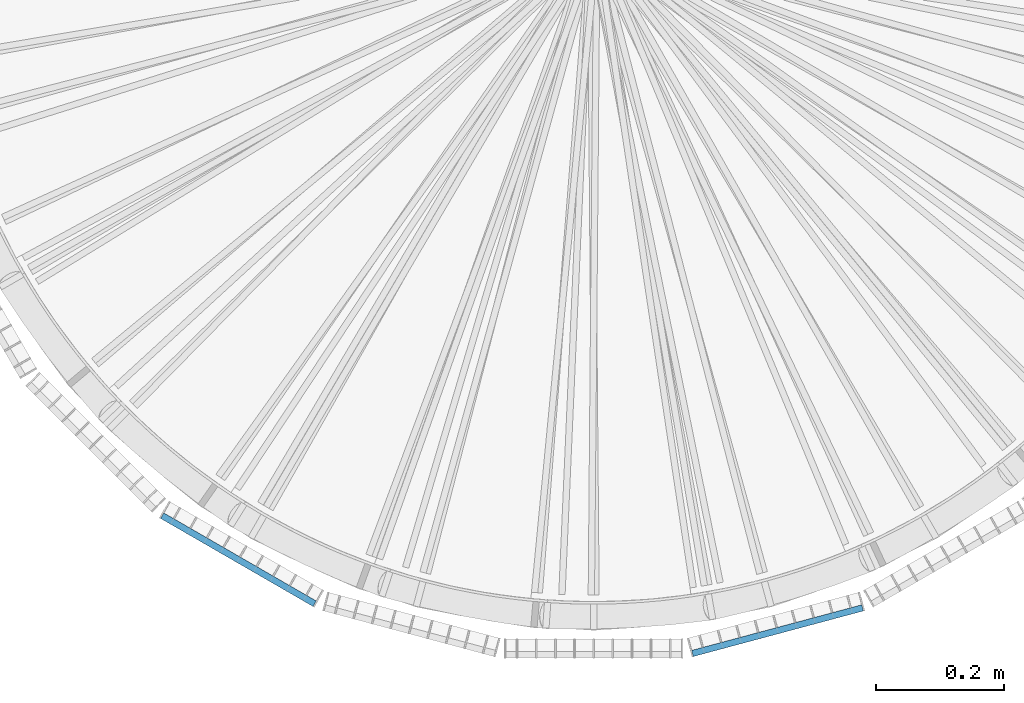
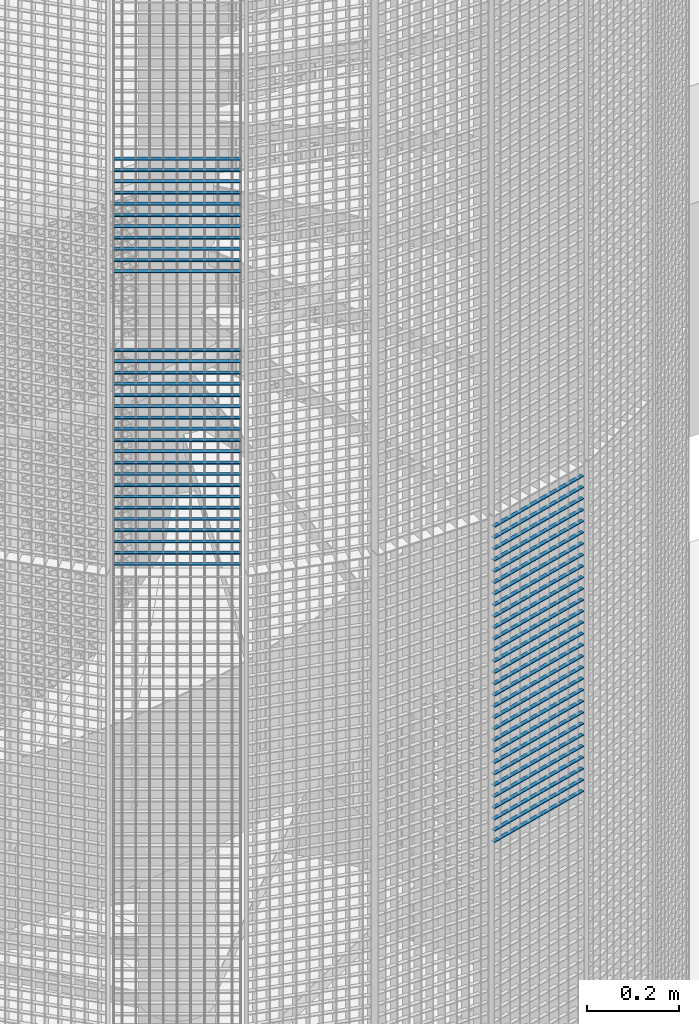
# One storey, part 146 of 1148: 60 beams, 2 elements without a shape of their own.
"""IFC2X3 building model written with IfcOpenShell, lengths in millimetres."""

from ifc_helpers import new_model, si_unit, frame, origin_with_axes, origin_2d_with_axis, place, context, subcontext, project, spatial, rectangle, extrude, material, type_object, element, aggregate, save


model = new_model("IFC2X3")

# Units and contexts
model_context = context("Model", 3, precision=1e-05, world=origin_with_axes())
body_context = subcontext(model_context, "Body", "Model", "MODEL_VIEW")
ifc_project = project(units=[si_unit("LENGTHUNIT", "METRE", prefix="MILLI"), si_unit("AREAUNIT", "SQUARE_METRE"), si_unit("VOLUMEUNIT", "CUBIC_METRE"), si_unit("MASSUNIT", "GRAM", prefix="KILO"), si_unit("TIMEUNIT", "SECOND"), si_unit("PLANEANGLEUNIT", "RADIAN"), si_unit("SOLIDANGLEUNIT", "STERADIAN"), si_unit("THERMODYNAMICTEMPERATUREUNIT", "DEGREE_CELSIUS"), si_unit("LUMINOUSINTENSITYUNIT", "LUMEN")], contexts=[model_context])

# Site, building, storey
site_placement = place(None, origin_with_axes())
site = spatial("IfcSite", under=ifc_project, at=site_placement, Name="Undefined", CompositionType="ELEMENT")
building_placement = place(site_placement, origin_with_axes())
building = spatial("IfcBuilding", under=site, at=building_placement, Name="Undefined", CompositionType="ELEMENT")
storey_placement = place(building_placement, origin_with_axes())
storey = spatial("IfcBuildingStorey", under=building, at=storey_placement, Name="Undefined", CompositionType="ELEMENT", Elevation=0.0)

# Assembly, beams
assembly_1_placement = place(storey_placement, origin_with_axes())
assembly_1 = element("IfcElementAssembly", 1, at=assembly_1_placement, inside=storey, Name="BORDURE", AssemblyPlace="NOTDEFINED", PredefinedType="NOTDEFINED")
ifc_material = material(Name="STEEL/S235JR")
beam_type = type_object("IfcBeamType", Name="PL2*10", PredefinedType="NOTDEFINED")
beam_1_placement = place(assembly_1_placement, frame((-676.248044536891, -895.30396491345, 12600.0), z_axis=(-0.49999999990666, -0.866025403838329, 0.0), x_axis=(0.866025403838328, -0.49999999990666, 0.0)))
beam_1 = element("IfcBeam", 2, at=beam_1_placement, type_object=beam_type, material=ifc_material, Name="ENTRETOISE", context=body_context, shape_type="SweptSolid", body=[
    extrude(rectangle(XDim=2.0, YDim=10.0, at=origin_2d_with_axis()), frame((275.999999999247, 9.09494701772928e-13, 1.53210777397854e-14), z_axis=(-1.0, 0.0, 0.0), x_axis=(0.0, -1.0, 0.0)), (0.0, 0.0, 1.0), 276.0),
])
beam_2_placement = place(assembly_1_placement, frame((-676.248044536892, -895.303964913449, 12810.0), z_axis=(-0.49999999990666, -0.866025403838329, 0.0), x_axis=(0.866025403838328, -0.49999999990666, 0.0)))
beam_2 = element("IfcBeam", 3, at=beam_2_placement, type_object=beam_type, material=ifc_material, Name="ENTRETOISE", context=body_context, shape_type="SweptSolid", body=[
    extrude(rectangle(XDim=2.0, YDim=10.0, at=origin_2d_with_axis()), frame((275.999999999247, 9.09494701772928e-13, 1.53210777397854e-14), z_axis=(-1.0, 0.0, 0.0), x_axis=(0.0, -1.0, 0.0)), (0.0, 0.0, 1.0), 276.0),
])
beam_3_placement = place(assembly_1_placement, frame((-676.248044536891, -895.30396491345, 12570.0), z_axis=(-0.49999999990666, -0.866025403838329, 0.0), x_axis=(0.866025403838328, -0.49999999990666, 0.0)))
beam_3 = element("IfcBeam", 4, at=beam_3_placement, type_object=beam_type, material=ifc_material, Name="ENTRETOISE", context=body_context, shape_type="SweptSolid", body=[
    extrude(rectangle(XDim=2.0, YDim=10.0, at=origin_2d_with_axis()), frame((275.999999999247, 9.09494701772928e-13, 1.53210777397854e-14), z_axis=(-1.0, 0.0, 0.0), x_axis=(0.0, -1.0, 0.0)), (0.0, 0.0, 1.0), 276.0),
])
beam_4_placement = place(assembly_1_placement, frame((-676.248044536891, -895.30396491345, 12540.0), z_axis=(-0.49999999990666, -0.866025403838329, 0.0), x_axis=(0.866025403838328, -0.49999999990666, 0.0)))
beam_4 = element("IfcBeam", 5, at=beam_4_placement, type_object=beam_type, material=ifc_material, Name="ENTRETOISE", context=body_context, shape_type="SweptSolid", body=[
    extrude(rectangle(XDim=2.0, YDim=10.0, at=origin_2d_with_axis()), frame((275.999999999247, 9.09494701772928e-13, 1.53210777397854e-14), z_axis=(-1.0, 0.0, 0.0), x_axis=(0.0, -1.0, 0.0)), (0.0, 0.0, 1.0), 276.0),
])
beam_5_placement = place(assembly_1_placement, frame((-676.248044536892, -895.303964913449, 12840.0), z_axis=(-0.49999999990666, -0.866025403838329, 0.0), x_axis=(0.866025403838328, -0.49999999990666, 0.0)))
beam_5 = element("IfcBeam", 6, at=beam_5_placement, type_object=beam_type, material=ifc_material, Name="ENTRETOISE", context=body_context, shape_type="SweptSolid", body=[
    extrude(rectangle(XDim=2.0, YDim=10.0, at=origin_2d_with_axis()), frame((275.999999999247, 9.09494701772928e-13, 1.53210777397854e-14), z_axis=(-1.0, 0.0, 0.0), x_axis=(0.0, -1.0, 0.0)), (0.0, 0.0, 1.0), 276.0),
])
beam_6_placement = place(assembly_1_placement, frame((-676.248044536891, -895.303964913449, 12510.0), z_axis=(-0.49999999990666, -0.866025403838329, 0.0), x_axis=(0.866025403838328, -0.49999999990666, 0.0)))
beam_6 = element("IfcBeam", 7, at=beam_6_placement, type_object=beam_type, material=ifc_material, Name="ENTRETOISE", context=body_context, shape_type="SweptSolid", body=[
    extrude(rectangle(XDim=2.0, YDim=10.0, at=origin_2d_with_axis()), frame((275.999999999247, 9.09494701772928e-13, 1.53210777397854e-14), z_axis=(-1.0, 0.0, 0.0), x_axis=(0.0, -1.0, 0.0)), (0.0, 0.0, 1.0), 276.0),
])
beam_7_placement = place(assembly_1_placement, frame((-676.248044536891, -895.303964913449, 12480.0), z_axis=(-0.49999999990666, -0.866025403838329, 0.0), x_axis=(0.866025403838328, -0.49999999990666, 0.0)))
beam_7 = element("IfcBeam", 8, at=beam_7_placement, type_object=beam_type, material=ifc_material, Name="ENTRETOISE", context=body_context, shape_type="SweptSolid", body=[
    extrude(rectangle(XDim=2.0, YDim=10.0, at=origin_2d_with_axis()), frame((275.999999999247, 9.09494701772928e-13, 1.53210777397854e-14), z_axis=(-1.0, 0.0, 0.0), x_axis=(0.0, -1.0, 0.0)), (0.0, 0.0, 1.0), 276.0),
])
beam_8_placement = place(assembly_1_placement, frame((-676.248044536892, -895.303964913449, 12870.0), z_axis=(-0.49999999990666, -0.866025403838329, 0.0), x_axis=(0.866025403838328, -0.49999999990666, 0.0)))
beam_8 = element("IfcBeam", 9, at=beam_8_placement, type_object=beam_type, material=ifc_material, Name="ENTRETOISE", context=body_context, shape_type="SweptSolid", body=[
    extrude(rectangle(XDim=2.0, YDim=10.0, at=origin_2d_with_axis()), frame((275.999999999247, 9.09494701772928e-13, 1.53210777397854e-14), z_axis=(-1.0, 0.0, 0.0), x_axis=(0.0, -1.0, 0.0)), (0.0, 0.0, 1.0), 276.0),
])
beam_9_placement = place(assembly_1_placement, frame((-676.248044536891, -895.30396491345, 12450.0), z_axis=(-0.49999999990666, -0.866025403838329, 0.0), x_axis=(0.866025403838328, -0.49999999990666, 0.0)))
beam_9 = element("IfcBeam", 10, at=beam_9_placement, type_object=beam_type, material=ifc_material, Name="ENTRETOISE", context=body_context, shape_type="SweptSolid", body=[
    extrude(rectangle(XDim=2.0, YDim=10.0, at=origin_2d_with_axis()), frame((275.999999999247, 9.09494701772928e-13, 1.53210777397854e-14), z_axis=(-1.0, 0.0, 0.0), x_axis=(0.0, -1.0, 0.0)), (0.0, 0.0, 1.0), 276.0),
])
beam_10_placement = place(assembly_1_placement, frame((-676.24804453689, -895.30396491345, 12420.0), z_axis=(-0.49999999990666, -0.866025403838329, 0.0), x_axis=(0.866025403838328, -0.49999999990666, 0.0)))
beam_10 = element("IfcBeam", 11, at=beam_10_placement, type_object=beam_type, material=ifc_material, Name="ENTRETOISE", context=body_context, shape_type="SweptSolid", body=[
    extrude(rectangle(XDim=2.0, YDim=10.0, at=origin_2d_with_axis()), frame((275.999999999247, 9.09494701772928e-13, 1.53210777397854e-14), z_axis=(-1.0, 0.0, 0.0), x_axis=(0.0, -1.0, 0.0)), (0.0, 0.0, 1.0), 276.0),
])
beam_11_placement = place(assembly_1_placement, frame((-676.248044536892, -895.303964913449, 12900.0), z_axis=(-0.49999999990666, -0.866025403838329, 0.0), x_axis=(0.866025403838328, -0.49999999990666, 0.0)))
beam_11 = element("IfcBeam", 12, at=beam_11_placement, type_object=beam_type, material=ifc_material, Name="ENTRETOISE", context=body_context, shape_type="SweptSolid", body=[
    extrude(rectangle(XDim=2.0, YDim=10.0, at=origin_2d_with_axis()), frame((275.999999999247, 9.09494701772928e-13, 1.53210777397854e-14), z_axis=(-1.0, 0.0, 0.0), x_axis=(0.0, -1.0, 0.0)), (0.0, 0.0, 1.0), 276.0),
])
beam_12_placement = place(assembly_1_placement, frame((-676.24804453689, -895.30396491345, 12390.0), z_axis=(-0.49999999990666, -0.866025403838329, 0.0), x_axis=(0.866025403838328, -0.49999999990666, 0.0)))
beam_12 = element("IfcBeam", 13, at=beam_12_placement, type_object=beam_type, material=ifc_material, Name="ENTRETOISE", context=body_context, shape_type="SweptSolid", body=[
    extrude(rectangle(XDim=2.0, YDim=10.0, at=origin_2d_with_axis()), frame((275.999999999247, 9.09494701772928e-13, 1.53210777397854e-14), z_axis=(-1.0, 0.0, 0.0), x_axis=(0.0, -1.0, 0.0)), (0.0, 0.0, 1.0), 276.0),
])
beam_13_placement = place(assembly_1_placement, frame((-676.248044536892, -895.303964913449, 12930.0), z_axis=(-0.49999999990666, -0.866025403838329, 0.0), x_axis=(0.866025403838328, -0.49999999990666, 0.0)))
beam_13 = element("IfcBeam", 14, at=beam_13_placement, type_object=beam_type, material=ifc_material, Name="ENTRETOISE", context=body_context, shape_type="SweptSolid", body=[
    extrude(rectangle(XDim=2.0, YDim=10.0, at=origin_2d_with_axis()), frame((275.999999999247, 9.09494701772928e-13, 1.53210777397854e-14), z_axis=(-1.0, 0.0, 0.0), x_axis=(0.0, -1.0, 0.0)), (0.0, 0.0, 1.0), 276.0),
])
beam_14_placement = place(assembly_1_placement, frame((-676.24804453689, -895.30396491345, 12360.0), z_axis=(-0.49999999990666, -0.866025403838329, 0.0), x_axis=(0.866025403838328, -0.49999999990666, 0.0)))
beam_14 = element("IfcBeam", 15, at=beam_14_placement, type_object=beam_type, material=ifc_material, Name="ENTRETOISE", context=body_context, shape_type="SweptSolid", body=[
    extrude(rectangle(XDim=2.0, YDim=10.0, at=origin_2d_with_axis()), frame((275.999999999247, 9.09494701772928e-13, 1.53210777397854e-14), z_axis=(-1.0, 0.0, 0.0), x_axis=(0.0, -1.0, 0.0)), (0.0, 0.0, 1.0), 276.0),
])
beam_15_placement = place(assembly_1_placement, frame((-676.24804453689, -895.30396491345, 12330.0), z_axis=(-0.49999999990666, -0.866025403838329, 0.0), x_axis=(0.866025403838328, -0.49999999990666, 0.0)))
beam_15 = element("IfcBeam", 16, at=beam_15_placement, type_object=beam_type, material=ifc_material, Name="ENTRETOISE", context=body_context, shape_type="SweptSolid", body=[
    extrude(rectangle(XDim=2.0, YDim=10.0, at=origin_2d_with_axis()), frame((275.999999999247, 9.09494701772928e-13, 1.53210777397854e-14), z_axis=(-1.0, 0.0, 0.0), x_axis=(0.0, -1.0, 0.0)), (0.0, 0.0, 1.0), 276.0),
])
beam_16_placement = place(assembly_1_placement, frame((-676.248044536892, -895.303964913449, 12960.0), z_axis=(-0.49999999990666, -0.866025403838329, 0.0), x_axis=(0.866025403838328, -0.49999999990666, 0.0)))
beam_16 = element("IfcBeam", 17, at=beam_16_placement, type_object=beam_type, material=ifc_material, Name="ENTRETOISE", context=body_context, shape_type="SweptSolid", body=[
    extrude(rectangle(XDim=2.0, YDim=10.0, at=origin_2d_with_axis()), frame((275.999999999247, 9.09494701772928e-13, 1.53210777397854e-14), z_axis=(-1.0, 0.0, 0.0), x_axis=(0.0, -1.0, 0.0)), (0.0, 0.0, 1.0), 276.0),
])
beam_17_placement = place(assembly_1_placement, frame((-676.24804453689, -895.30396491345, 12300.0), z_axis=(-0.49999999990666, -0.866025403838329, 0.0), x_axis=(0.866025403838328, -0.49999999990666, 0.0)))
beam_17 = element("IfcBeam", 18, at=beam_17_placement, type_object=beam_type, material=ifc_material, Name="ENTRETOISE", context=body_context, shape_type="SweptSolid", body=[
    extrude(rectangle(XDim=2.0, YDim=10.0, at=origin_2d_with_axis()), frame((275.999999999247, 9.09494701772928e-13, 1.53210777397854e-14), z_axis=(-1.0, 0.0, 0.0), x_axis=(0.0, -1.0, 0.0)), (0.0, 0.0, 1.0), 276.0),
])
beam_18_placement = place(assembly_1_placement, frame((-676.24804453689, -895.30396491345, 12270.0), z_axis=(-0.49999999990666, -0.866025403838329, 0.0), x_axis=(0.866025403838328, -0.49999999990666, 0.0)))
beam_18 = element("IfcBeam", 19, at=beam_18_placement, type_object=beam_type, material=ifc_material, Name="ENTRETOISE", context=body_context, shape_type="SweptSolid", body=[
    extrude(rectangle(XDim=2.0, YDim=10.0, at=origin_2d_with_axis()), frame((275.999999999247, 9.09494701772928e-13, 1.53210777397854e-14), z_axis=(-1.0, 0.0, 0.0), x_axis=(0.0, -1.0, 0.0)), (0.0, 0.0, 1.0), 276.0),
])
beam_19_placement = place(assembly_1_placement, frame((-676.248044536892, -895.303964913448, 12990.0), z_axis=(-0.49999999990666, -0.866025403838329, 0.0), x_axis=(0.866025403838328, -0.49999999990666, 0.0)))
beam_19 = element("IfcBeam", 20, at=beam_19_placement, type_object=beam_type, material=ifc_material, Name="ENTRETOISE", context=body_context, shape_type="SweptSolid", body=[
    extrude(rectangle(XDim=2.0, YDim=10.0, at=origin_2d_with_axis()), frame((275.999999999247, 9.09494701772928e-13, 1.53210777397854e-14), z_axis=(-1.0, 0.0, 0.0), x_axis=(0.0, -1.0, 0.0)), (0.0, 0.0, 1.0), 276.0),
])
beam_20_placement = place(assembly_1_placement, frame((-676.24804453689, -895.30396491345, 12240.0), z_axis=(-0.49999999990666, -0.866025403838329, 0.0), x_axis=(0.866025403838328, -0.49999999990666, 0.0)))
beam_20 = element("IfcBeam", 21, at=beam_20_placement, type_object=beam_type, material=ifc_material, Name="ENTRETOISE", context=body_context, shape_type="SweptSolid", body=[
    extrude(rectangle(XDim=2.0, YDim=10.0, at=origin_2d_with_axis()), frame((275.999999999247, 9.09494701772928e-13, 1.53210777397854e-14), z_axis=(-1.0, 0.0, 0.0), x_axis=(0.0, -1.0, 0.0)), (0.0, 0.0, 1.0), 276.0),
])
beam_21_placement = place(assembly_1_placement, frame((-676.248044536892, -895.303964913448, 13020.0), z_axis=(-0.49999999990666, -0.866025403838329, 0.0), x_axis=(0.866025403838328, -0.49999999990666, 0.0)))
beam_21 = element("IfcBeam", 22, at=beam_21_placement, type_object=beam_type, material=ifc_material, Name="ENTRETOISE", context=body_context, shape_type="SweptSolid", body=[
    extrude(rectangle(XDim=2.0, YDim=10.0, at=origin_2d_with_axis()), frame((275.999999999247, 9.09494701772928e-13, 1.53210777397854e-14), z_axis=(-1.0, 0.0, 0.0), x_axis=(0.0, -1.0, 0.0)), (0.0, 0.0, 1.0), 276.0),
])
beam_22_placement = place(assembly_1_placement, frame((-676.24804453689, -895.30396491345, 12210.0), z_axis=(-0.49999999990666, -0.866025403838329, 0.0), x_axis=(0.866025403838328, -0.49999999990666, 0.0)))
beam_22 = element("IfcBeam", 23, at=beam_22_placement, type_object=beam_type, material=ifc_material, Name="ENTRETOISE", context=body_context, shape_type="SweptSolid", body=[
    extrude(rectangle(XDim=2.0, YDim=10.0, at=origin_2d_with_axis()), frame((275.999999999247, 9.09494701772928e-13, 1.53210777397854e-14), z_axis=(-1.0, 0.0, 0.0), x_axis=(0.0, -1.0, 0.0)), (0.0, 0.0, 1.0), 276.0),
])
beam_23_placement = place(assembly_1_placement, frame((-676.24804453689, -895.30396491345, 12180.0), z_axis=(-0.49999999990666, -0.866025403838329, 0.0), x_axis=(0.866025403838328, -0.49999999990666, 0.0)))
beam_23 = element("IfcBeam", 24, at=beam_23_placement, type_object=beam_type, material=ifc_material, Name="ENTRETOISE", context=body_context, shape_type="SweptSolid", body=[
    extrude(rectangle(XDim=2.0, YDim=10.0, at=origin_2d_with_axis()), frame((275.999999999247, 9.09494701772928e-13, 1.53210777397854e-14), z_axis=(-1.0, 0.0, 0.0), x_axis=(0.0, -1.0, 0.0)), (0.0, 0.0, 1.0), 276.0),
])
beam_24_placement = place(assembly_1_placement, frame((-676.248044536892, -895.303964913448, 13050.0), z_axis=(-0.49999999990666, -0.866025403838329, 0.0), x_axis=(0.866025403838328, -0.49999999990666, 0.0)))
beam_24 = element("IfcBeam", 25, at=beam_24_placement, type_object=beam_type, material=ifc_material, Name="ENTRETOISE", context=body_context, shape_type="SweptSolid", body=[
    extrude(rectangle(XDim=2.0, YDim=10.0, at=origin_2d_with_axis()), frame((275.999999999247, 9.09494701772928e-13, 1.53210777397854e-14), z_axis=(-1.0, 0.0, 0.0), x_axis=(0.0, -1.0, 0.0)), (0.0, 0.0, 1.0), 276.0),
])
beam_25_placement = place(assembly_1_placement, frame((-676.24804453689, -895.30396491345, 12150.0), z_axis=(-0.49999999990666, -0.866025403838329, 0.0), x_axis=(0.866025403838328, -0.49999999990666, 0.0)))
beam_25 = element("IfcBeam", 26, at=beam_25_placement, type_object=beam_type, material=ifc_material, Name="ENTRETOISE", context=body_context, shape_type="SweptSolid", body=[
    extrude(rectangle(XDim=2.0, YDim=10.0, at=origin_2d_with_axis()), frame((275.999999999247, 9.09494701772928e-13, 1.53210777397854e-14), z_axis=(-1.0, 0.0, 0.0), x_axis=(0.0, -1.0, 0.0)), (0.0, 0.0, 1.0), 276.0),
])
beam_26_placement = place(assembly_1_placement, frame((-676.248044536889, -895.30396491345, 12120.0), z_axis=(-0.49999999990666, -0.866025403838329, 0.0), x_axis=(0.866025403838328, -0.49999999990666, 0.0)))
beam_26 = element("IfcBeam", 27, at=beam_26_placement, type_object=beam_type, material=ifc_material, Name="ENTRETOISE", context=body_context, shape_type="SweptSolid", body=[
    extrude(rectangle(XDim=2.0, YDim=10.0, at=origin_2d_with_axis()), frame((275.999999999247, 9.09494701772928e-13, 1.53210777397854e-14), z_axis=(-1.0, 0.0, 0.0), x_axis=(0.0, -1.0, 0.0)), (0.0, 0.0, 1.0), 276.0),
])
beam_27_placement = place(assembly_1_placement, frame((-676.248044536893, -895.303964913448, 13080.0), z_axis=(-0.49999999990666, -0.866025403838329, 0.0), x_axis=(0.866025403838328, -0.49999999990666, 0.0)))
beam_27 = element("IfcBeam", 28, at=beam_27_placement, type_object=beam_type, material=ifc_material, Name="ENTRETOISE", context=body_context, shape_type="SweptSolid", body=[
    extrude(rectangle(XDim=2.0, YDim=10.0, at=origin_2d_with_axis()), frame((275.999999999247, 9.09494701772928e-13, 1.53210777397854e-14), z_axis=(-1.0, 0.0, 0.0), x_axis=(0.0, -1.0, 0.0)), (0.0, 0.0, 1.0), 276.0),
])
beam_28_placement = place(assembly_1_placement, frame((-676.248044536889, -895.30396491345, 12090.0), z_axis=(-0.49999999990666, -0.866025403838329, 0.0), x_axis=(0.866025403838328, -0.49999999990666, 0.0)))
beam_28 = element("IfcBeam", 29, at=beam_28_placement, type_object=beam_type, material=ifc_material, Name="ENTRETOISE", context=body_context, shape_type="SweptSolid", body=[
    extrude(rectangle(XDim=2.0, YDim=10.0, at=origin_2d_with_axis()), frame((275.999999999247, 9.09494701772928e-13, 1.53210777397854e-14), z_axis=(-1.0, 0.0, 0.0), x_axis=(0.0, -1.0, 0.0)), (0.0, 0.0, 1.0), 276.0),
])
beam_29_placement = place(assembly_1_placement, frame((-676.248044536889, -895.30396491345, 12060.0), z_axis=(-0.49999999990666, -0.866025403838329, 0.0), x_axis=(0.866025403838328, -0.49999999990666, 0.0)))
beam_29 = element("IfcBeam", 30, at=beam_29_placement, type_object=beam_type, material=ifc_material, Name="ENTRETOISE", context=body_context, shape_type="SweptSolid", body=[
    extrude(rectangle(XDim=2.0, YDim=10.0, at=origin_2d_with_axis()), frame((275.999999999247, 9.09494701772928e-13, 1.53210777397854e-14), z_axis=(-1.0, 0.0, 0.0), x_axis=(0.0, -1.0, 0.0)), (0.0, 0.0, 1.0), 276.0),
])
beam_30_placement = place(assembly_1_placement, frame((-676.248044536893, -895.303964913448, 13110.0), z_axis=(-0.49999999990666, -0.866025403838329, 0.0), x_axis=(0.866025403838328, -0.49999999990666, 0.0)))
beam_30 = element("IfcBeam", 31, at=beam_30_placement, type_object=beam_type, material=ifc_material, Name="ENTRETOISE", context=body_context, shape_type="SweptSolid", body=[
    extrude(rectangle(XDim=2.0, YDim=10.0, at=origin_2d_with_axis()), frame((275.999999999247, 9.09494701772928e-13, 1.53210777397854e-14), z_axis=(-1.0, 0.0, 0.0), x_axis=(0.0, -1.0, 0.0)), (0.0, 0.0, 1.0), 276.0),
])
beam_31_placement = place(assembly_1_placement, frame((-676.248044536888, -895.30396491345, 12030.0), z_axis=(-0.49999999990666, -0.866025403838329, 0.0), x_axis=(0.866025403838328, -0.49999999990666, 0.0)))
beam_31 = element("IfcBeam", 32, at=beam_31_placement, type_object=beam_type, material=ifc_material, Name="ENTRETOISE", context=body_context, shape_type="SweptSolid", body=[
    extrude(rectangle(XDim=2.0, YDim=10.0, at=origin_2d_with_axis()), frame((275.999999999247, 9.09494701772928e-13, 1.53210777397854e-14), z_axis=(-1.0, 0.0, 0.0), x_axis=(0.0, -1.0, 0.0)), (0.0, 0.0, 1.0), 276.0),
])
aggregate(assembly_1, [beam_1, beam_2, beam_3, beam_4, beam_5, beam_6, beam_7, beam_8, beam_9, beam_10, beam_11, beam_12, beam_13, beam_14, beam_15, beam_16, beam_17, beam_18, beam_19, beam_20, beam_21, beam_22, beam_23, beam_24, beam_25, beam_26, beam_27, beam_28, beam_29, beam_30, beam_31])

assembly_2_placement = place(storey_placement, origin_with_axes())
assembly_2 = element("IfcElementAssembly", 33, at=assembly_2_placement, inside=storey, Name="BORDURE", AssemblyPlace="NOTDEFINED", PredefinedType="NOTDEFINED")
beam_32_placement = place(assembly_2_placement, frame((154.895926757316, -1111.25508286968, 11970.0), z_axis=(0.258819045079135, -0.965925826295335, 0.0), x_axis=(0.965925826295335, 0.258819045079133, 0.0)))
beam_32 = element("IfcBeam", 34, at=beam_32_placement, type_object=beam_type, material=ifc_material, Name="ENTRETOISE", context=body_context, shape_type="SweptSolid", body=[
    extrude(rectangle(XDim=2.0, YDim=10.0, at=origin_2d_with_axis()), frame((275.999999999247, 9.09494701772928e-13, 1.53210777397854e-14), z_axis=(-1.0, 0.0, 0.0), x_axis=(0.0, -1.0, 0.0)), (0.0, 0.0, 1.0), 276.0),
])
beam_33_placement = place(assembly_2_placement, frame((154.895926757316, -1111.25508286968, 11940.0), z_axis=(0.258819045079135, -0.965925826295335, 0.0), x_axis=(0.965925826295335, 0.258819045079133, 0.0)))
beam_33 = element("IfcBeam", 35, at=beam_33_placement, type_object=beam_type, material=ifc_material, Name="ENTRETOISE", context=body_context, shape_type="SweptSolid", body=[
    extrude(rectangle(XDim=2.0, YDim=10.0, at=origin_2d_with_axis()), frame((275.999999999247, 9.09494701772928e-13, 1.53210777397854e-14), z_axis=(-1.0, 0.0, 0.0), x_axis=(0.0, -1.0, 0.0)), (0.0, 0.0, 1.0), 276.0),
])
beam_34_placement = place(assembly_2_placement, frame((154.895926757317, -1111.25508286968, 11910.0), z_axis=(0.258819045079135, -0.965925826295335, 0.0), x_axis=(0.965925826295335, 0.258819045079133, 0.0)))
beam_34 = element("IfcBeam", 36, at=beam_34_placement, type_object=beam_type, material=ifc_material, Name="ENTRETOISE", context=body_context, shape_type="SweptSolid", body=[
    extrude(rectangle(XDim=2.0, YDim=10.0, at=origin_2d_with_axis()), frame((275.999999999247, 9.09494701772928e-13, 1.53210777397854e-14), z_axis=(-1.0, 0.0, 0.0), x_axis=(0.0, -1.0, 0.0)), (0.0, 0.0, 1.0), 276.0),
])
beam_35_placement = place(assembly_2_placement, frame((154.895926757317, -1111.25508286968, 11880.0), z_axis=(0.258819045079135, -0.965925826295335, 0.0), x_axis=(0.965925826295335, 0.258819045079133, 0.0)))
beam_35 = element("IfcBeam", 37, at=beam_35_placement, type_object=beam_type, material=ifc_material, Name="ENTRETOISE", context=body_context, shape_type="SweptSolid", body=[
    extrude(rectangle(XDim=2.0, YDim=10.0, at=origin_2d_with_axis()), frame((275.999999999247, 9.09494701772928e-13, 1.53210777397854e-14), z_axis=(-1.0, 0.0, 0.0), x_axis=(0.0, -1.0, 0.0)), (0.0, 0.0, 1.0), 276.0),
])
beam_36_placement = place(assembly_2_placement, frame((154.895926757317, -1111.25508286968, 11850.0), z_axis=(0.258819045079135, -0.965925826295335, 0.0), x_axis=(0.965925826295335, 0.258819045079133, 0.0)))
beam_36 = element("IfcBeam", 38, at=beam_36_placement, type_object=beam_type, material=ifc_material, Name="ENTRETOISE", context=body_context, shape_type="SweptSolid", body=[
    extrude(rectangle(XDim=2.0, YDim=10.0, at=origin_2d_with_axis()), frame((275.999999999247, 9.09494701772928e-13, 1.53210777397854e-14), z_axis=(-1.0, 0.0, 0.0), x_axis=(0.0, -1.0, 0.0)), (0.0, 0.0, 1.0), 276.0),
])
beam_37_placement = place(assembly_2_placement, frame((154.895926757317, -1111.25508286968, 11820.0), z_axis=(0.258819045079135, -0.965925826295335, 0.0), x_axis=(0.965925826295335, 0.258819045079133, 0.0)))
beam_37 = element("IfcBeam", 39, at=beam_37_placement, type_object=beam_type, material=ifc_material, Name="ENTRETOISE", context=body_context, shape_type="SweptSolid", body=[
    extrude(rectangle(XDim=2.0, YDim=10.0, at=origin_2d_with_axis()), frame((275.999999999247, 9.09494701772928e-13, 1.53210777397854e-14), z_axis=(-1.0, 0.0, 0.0), x_axis=(0.0, -1.0, 0.0)), (0.0, 0.0, 1.0), 276.0),
])
beam_38_placement = place(assembly_2_placement, frame((154.895926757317, -1111.25508286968, 11790.0), z_axis=(0.258819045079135, -0.965925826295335, 0.0), x_axis=(0.965925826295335, 0.258819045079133, 0.0)))
beam_38 = element("IfcBeam", 40, at=beam_38_placement, type_object=beam_type, material=ifc_material, Name="ENTRETOISE", context=body_context, shape_type="SweptSolid", body=[
    extrude(rectangle(XDim=2.0, YDim=10.0, at=origin_2d_with_axis()), frame((275.999999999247, 9.09494701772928e-13, 1.53210777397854e-14), z_axis=(-1.0, 0.0, 0.0), x_axis=(0.0, -1.0, 0.0)), (0.0, 0.0, 1.0), 276.0),
])
beam_39_placement = place(assembly_2_placement, frame((154.895926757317, -1111.25508286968, 11760.0), z_axis=(0.258819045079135, -0.965925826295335, 0.0), x_axis=(0.965925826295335, 0.258819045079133, 0.0)))
beam_39 = element("IfcBeam", 41, at=beam_39_placement, type_object=beam_type, material=ifc_material, Name="ENTRETOISE", context=body_context, shape_type="SweptSolid", body=[
    extrude(rectangle(XDim=2.0, YDim=10.0, at=origin_2d_with_axis()), frame((275.999999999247, 9.09494701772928e-13, 1.53210777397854e-14), z_axis=(-1.0, 0.0, 0.0), x_axis=(0.0, -1.0, 0.0)), (0.0, 0.0, 1.0), 276.0),
])
beam_40_placement = place(assembly_2_placement, frame((154.895926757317, -1111.25508286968, 11730.0), z_axis=(0.258819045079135, -0.965925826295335, 0.0), x_axis=(0.965925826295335, 0.258819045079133, 0.0)))
beam_40 = element("IfcBeam", 42, at=beam_40_placement, type_object=beam_type, material=ifc_material, Name="ENTRETOISE", context=body_context, shape_type="SweptSolid", body=[
    extrude(rectangle(XDim=2.0, YDim=10.0, at=origin_2d_with_axis()), frame((275.999999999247, 9.09494701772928e-13, 1.53210777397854e-14), z_axis=(-1.0, 0.0, 0.0), x_axis=(0.0, -1.0, 0.0)), (0.0, 0.0, 1.0), 276.0),
])
beam_41_placement = place(assembly_2_placement, frame((154.895926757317, -1111.25508286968, 11700.0), z_axis=(0.258819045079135, -0.965925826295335, 0.0), x_axis=(0.965925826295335, 0.258819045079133, 0.0)))
beam_41 = element("IfcBeam", 43, at=beam_41_placement, type_object=beam_type, material=ifc_material, Name="ENTRETOISE", context=body_context, shape_type="SweptSolid", body=[
    extrude(rectangle(XDim=2.0, YDim=10.0, at=origin_2d_with_axis()), frame((275.999999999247, 9.09494701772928e-13, 1.53210777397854e-14), z_axis=(-1.0, 0.0, 0.0), x_axis=(0.0, -1.0, 0.0)), (0.0, 0.0, 1.0), 276.0),
])
beam_42_placement = place(assembly_2_placement, frame((154.895926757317, -1111.25508286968, 11670.0), z_axis=(0.258819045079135, -0.965925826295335, 0.0), x_axis=(0.965925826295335, 0.258819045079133, 0.0)))
beam_42 = element("IfcBeam", 44, at=beam_42_placement, type_object=beam_type, material=ifc_material, Name="ENTRETOISE", context=body_context, shape_type="SweptSolid", body=[
    extrude(rectangle(XDim=2.0, YDim=10.0, at=origin_2d_with_axis()), frame((275.999999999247, 9.09494701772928e-13, 1.53210777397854e-14), z_axis=(-1.0, 0.0, 0.0), x_axis=(0.0, -1.0, 0.0)), (0.0, 0.0, 1.0), 276.0),
])
beam_43_placement = place(assembly_2_placement, frame((154.895926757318, -1111.25508286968, 11640.0), z_axis=(0.258819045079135, -0.965925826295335, 0.0), x_axis=(0.965925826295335, 0.258819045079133, 0.0)))
beam_43 = element("IfcBeam", 45, at=beam_43_placement, type_object=beam_type, material=ifc_material, Name="ENTRETOISE", context=body_context, shape_type="SweptSolid", body=[
    extrude(rectangle(XDim=2.0, YDim=10.0, at=origin_2d_with_axis()), frame((275.999999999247, 9.09494701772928e-13, 1.53210777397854e-14), z_axis=(-1.0, 0.0, 0.0), x_axis=(0.0, -1.0, 0.0)), (0.0, 0.0, 1.0), 276.0),
])
beam_44_placement = place(assembly_2_placement, frame((154.895926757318, -1111.25508286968, 11610.0), z_axis=(0.258819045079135, -0.965925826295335, 0.0), x_axis=(0.965925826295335, 0.258819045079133, 0.0)))
beam_44 = element("IfcBeam", 46, at=beam_44_placement, type_object=beam_type, material=ifc_material, Name="ENTRETOISE", context=body_context, shape_type="SweptSolid", body=[
    extrude(rectangle(XDim=2.0, YDim=10.0, at=origin_2d_with_axis()), frame((275.999999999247, 9.09494701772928e-13, 1.53210777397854e-14), z_axis=(-1.0, 0.0, 0.0), x_axis=(0.0, -1.0, 0.0)), (0.0, 0.0, 1.0), 276.0),
])
beam_45_placement = place(assembly_2_placement, frame((154.895926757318, -1111.25508286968, 11580.0), z_axis=(0.258819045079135, -0.965925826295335, 0.0), x_axis=(0.965925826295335, 0.258819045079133, 0.0)))
beam_45 = element("IfcBeam", 47, at=beam_45_placement, type_object=beam_type, material=ifc_material, Name="ENTRETOISE", context=body_context, shape_type="SweptSolid", body=[
    extrude(rectangle(XDim=2.0, YDim=10.0, at=origin_2d_with_axis()), frame((275.999999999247, 9.09494701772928e-13, 1.53210777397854e-14), z_axis=(-1.0, 0.0, 0.0), x_axis=(0.0, -1.0, 0.0)), (0.0, 0.0, 1.0), 276.0),
])
beam_46_placement = place(assembly_2_placement, frame((154.895926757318, -1111.25508286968, 11550.0), z_axis=(0.258819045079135, -0.965925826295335, 0.0), x_axis=(0.965925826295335, 0.258819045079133, 0.0)))
beam_46 = element("IfcBeam", 48, at=beam_46_placement, type_object=beam_type, material=ifc_material, Name="ENTRETOISE", context=body_context, shape_type="SweptSolid", body=[
    extrude(rectangle(XDim=2.0, YDim=10.0, at=origin_2d_with_axis()), frame((275.999999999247, 9.09494701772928e-13, 1.53210777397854e-14), z_axis=(-1.0, 0.0, 0.0), x_axis=(0.0, -1.0, 0.0)), (0.0, 0.0, 1.0), 276.0),
])
beam_47_placement = place(assembly_2_placement, frame((154.895926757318, -1111.25508286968, 11520.0), z_axis=(0.258819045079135, -0.965925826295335, 0.0), x_axis=(0.965925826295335, 0.258819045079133, 0.0)))
beam_47 = element("IfcBeam", 49, at=beam_47_placement, type_object=beam_type, material=ifc_material, Name="ENTRETOISE", context=body_context, shape_type="SweptSolid", body=[
    extrude(rectangle(XDim=2.0, YDim=10.0, at=origin_2d_with_axis()), frame((275.999999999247, 9.09494701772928e-13, 1.53210777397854e-14), z_axis=(-1.0, 0.0, 0.0), x_axis=(0.0, -1.0, 0.0)), (0.0, 0.0, 1.0), 276.0),
])
beam_48_placement = place(assembly_2_placement, frame((154.895926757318, -1111.25508286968, 11490.0), z_axis=(0.258819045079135, -0.965925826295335, 0.0), x_axis=(0.965925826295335, 0.258819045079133, 0.0)))
beam_48 = element("IfcBeam", 50, at=beam_48_placement, type_object=beam_type, material=ifc_material, Name="ENTRETOISE", context=body_context, shape_type="SweptSolid", body=[
    extrude(rectangle(XDim=2.0, YDim=10.0, at=origin_2d_with_axis()), frame((275.999999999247, 9.09494701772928e-13, 1.53210777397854e-14), z_axis=(-1.0, 0.0, 0.0), x_axis=(0.0, -1.0, 0.0)), (0.0, 0.0, 1.0), 276.0),
])
beam_49_placement = place(assembly_2_placement, frame((154.895926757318, -1111.25508286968, 11460.0), z_axis=(0.258819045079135, -0.965925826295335, 0.0), x_axis=(0.965925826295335, 0.258819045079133, 0.0)))
beam_49 = element("IfcBeam", 51, at=beam_49_placement, type_object=beam_type, material=ifc_material, Name="ENTRETOISE", context=body_context, shape_type="SweptSolid", body=[
    extrude(rectangle(XDim=2.0, YDim=10.0, at=origin_2d_with_axis()), frame((275.999999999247, 9.09494701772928e-13, 1.53210777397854e-14), z_axis=(-1.0, 0.0, 0.0), x_axis=(0.0, -1.0, 0.0)), (0.0, 0.0, 1.0), 276.0),
])
beam_50_placement = place(assembly_2_placement, frame((154.895926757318, -1111.25508286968, 11430.0), z_axis=(0.258819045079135, -0.965925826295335, 0.0), x_axis=(0.965925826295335, 0.258819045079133, 0.0)))
beam_50 = element("IfcBeam", 52, at=beam_50_placement, type_object=beam_type, material=ifc_material, Name="ENTRETOISE", context=body_context, shape_type="SweptSolid", body=[
    extrude(rectangle(XDim=2.0, YDim=10.0, at=origin_2d_with_axis()), frame((275.999999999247, 9.09494701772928e-13, 1.53210777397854e-14), z_axis=(-1.0, 0.0, 0.0), x_axis=(0.0, -1.0, 0.0)), (0.0, 0.0, 1.0), 276.0),
])
beam_51_placement = place(assembly_2_placement, frame((154.895926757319, -1111.25508286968, 11400.0), z_axis=(0.258819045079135, -0.965925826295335, 0.0), x_axis=(0.965925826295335, 0.258819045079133, 0.0)))
beam_51 = element("IfcBeam", 53, at=beam_51_placement, type_object=beam_type, material=ifc_material, Name="ENTRETOISE", context=body_context, shape_type="SweptSolid", body=[
    extrude(rectangle(XDim=2.0, YDim=10.0, at=origin_2d_with_axis()), frame((275.999999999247, 9.09494701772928e-13, 1.53210777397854e-14), z_axis=(-1.0, 0.0, 0.0), x_axis=(0.0, -1.0, 0.0)), (0.0, 0.0, 1.0), 276.0),
])
beam_52_placement = place(assembly_2_placement, frame((154.895926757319, -1111.25508286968, 11370.0), z_axis=(0.258819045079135, -0.965925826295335, 0.0), x_axis=(0.965925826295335, 0.258819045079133, 0.0)))
beam_52 = element("IfcBeam", 54, at=beam_52_placement, type_object=beam_type, material=ifc_material, Name="ENTRETOISE", context=body_context, shape_type="SweptSolid", body=[
    extrude(rectangle(XDim=2.0, YDim=10.0, at=origin_2d_with_axis()), frame((275.999999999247, 9.09494701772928e-13, 1.53210777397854e-14), z_axis=(-1.0, 0.0, 0.0), x_axis=(0.0, -1.0, 0.0)), (0.0, 0.0, 1.0), 276.0),
])
beam_53_placement = place(assembly_2_placement, frame((154.895926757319, -1111.25508286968, 11340.0), z_axis=(0.258819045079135, -0.965925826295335, 0.0), x_axis=(0.965925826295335, 0.258819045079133, 0.0)))
beam_53 = element("IfcBeam", 55, at=beam_53_placement, type_object=beam_type, material=ifc_material, Name="ENTRETOISE", context=body_context, shape_type="SweptSolid", body=[
    extrude(rectangle(XDim=2.0, YDim=10.0, at=origin_2d_with_axis()), frame((275.999999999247, 9.09494701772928e-13, 1.53210777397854e-14), z_axis=(-1.0, 0.0, 0.0), x_axis=(0.0, -1.0, 0.0)), (0.0, 0.0, 1.0), 276.0),
])
beam_54_placement = place(assembly_2_placement, frame((154.895926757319, -1111.25508286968, 11310.0), z_axis=(0.258819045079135, -0.965925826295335, 0.0), x_axis=(0.965925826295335, 0.258819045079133, 0.0)))
beam_54 = element("IfcBeam", 56, at=beam_54_placement, type_object=beam_type, material=ifc_material, Name="ENTRETOISE", context=body_context, shape_type="SweptSolid", body=[
    extrude(rectangle(XDim=2.0, YDim=10.0, at=origin_2d_with_axis()), frame((275.999999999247, 9.09494701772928e-13, 1.53210777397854e-14), z_axis=(-1.0, 0.0, 0.0), x_axis=(0.0, -1.0, 0.0)), (0.0, 0.0, 1.0), 276.0),
])
beam_55_placement = place(assembly_2_placement, frame((154.895926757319, -1111.25508286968, 11280.0), z_axis=(0.258819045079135, -0.965925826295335, 0.0), x_axis=(0.965925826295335, 0.258819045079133, 0.0)))
beam_55 = element("IfcBeam", 57, at=beam_55_placement, type_object=beam_type, material=ifc_material, Name="ENTRETOISE", context=body_context, shape_type="SweptSolid", body=[
    extrude(rectangle(XDim=2.0, YDim=10.0, at=origin_2d_with_axis()), frame((275.999999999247, 9.09494701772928e-13, 1.53210777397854e-14), z_axis=(-1.0, 0.0, 0.0), x_axis=(0.0, -1.0, 0.0)), (0.0, 0.0, 1.0), 276.0),
])
beam_56_placement = place(assembly_2_placement, frame((154.895926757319, -1111.25508286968, 11250.0), z_axis=(0.258819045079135, -0.965925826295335, 0.0), x_axis=(0.965925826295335, 0.258819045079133, 0.0)))
beam_56 = element("IfcBeam", 58, at=beam_56_placement, type_object=beam_type, material=ifc_material, Name="ENTRETOISE", context=body_context, shape_type="SweptSolid", body=[
    extrude(rectangle(XDim=2.0, YDim=10.0, at=origin_2d_with_axis()), frame((275.999999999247, 9.09494701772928e-13, 1.53210777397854e-14), z_axis=(-1.0, 0.0, 0.0), x_axis=(0.0, -1.0, 0.0)), (0.0, 0.0, 1.0), 276.0),
])
beam_57_placement = place(assembly_2_placement, frame((154.895926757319, -1111.25508286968, 11220.0), z_axis=(0.258819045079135, -0.965925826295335, 0.0), x_axis=(0.965925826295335, 0.258819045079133, 0.0)))
beam_57 = element("IfcBeam", 59, at=beam_57_placement, type_object=beam_type, material=ifc_material, Name="ENTRETOISE", context=body_context, shape_type="SweptSolid", body=[
    extrude(rectangle(XDim=2.0, YDim=10.0, at=origin_2d_with_axis()), frame((275.999999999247, 9.09494701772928e-13, 1.53210777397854e-14), z_axis=(-1.0, 0.0, 0.0), x_axis=(0.0, -1.0, 0.0)), (0.0, 0.0, 1.0), 276.0),
])
beam_58_placement = place(assembly_2_placement, frame((154.895926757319, -1111.25508286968, 11190.0), z_axis=(0.258819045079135, -0.965925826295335, 0.0), x_axis=(0.965925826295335, 0.258819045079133, 0.0)))
beam_58 = element("IfcBeam", 60, at=beam_58_placement, type_object=beam_type, material=ifc_material, Name="ENTRETOISE", context=body_context, shape_type="SweptSolid", body=[
    extrude(rectangle(XDim=2.0, YDim=10.0, at=origin_2d_with_axis()), frame((275.999999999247, 9.09494701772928e-13, 1.53210777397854e-14), z_axis=(-1.0, 0.0, 0.0), x_axis=(0.0, -1.0, 0.0)), (0.0, 0.0, 1.0), 276.0),
])
beam_59_placement = place(assembly_2_placement, frame((154.895926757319, -1111.25508286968, 11160.0), z_axis=(0.258819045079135, -0.965925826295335, 0.0), x_axis=(0.965925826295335, 0.258819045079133, 0.0)))
beam_59 = element("IfcBeam", 61, at=beam_59_placement, type_object=beam_type, material=ifc_material, Name="ENTRETOISE", context=body_context, shape_type="SweptSolid", body=[
    extrude(rectangle(XDim=2.0, YDim=10.0, at=origin_2d_with_axis()), frame((275.999999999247, 9.09494701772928e-13, 1.53210777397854e-14), z_axis=(-1.0, 0.0, 0.0), x_axis=(0.0, -1.0, 0.0)), (0.0, 0.0, 1.0), 276.0),
])
beam_60_placement = place(assembly_2_placement, frame((154.89592675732, -1111.25508286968, 11130.0), z_axis=(0.258819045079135, -0.965925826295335, 0.0), x_axis=(0.965925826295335, 0.258819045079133, 0.0)))
beam_60 = element("IfcBeam", 62, at=beam_60_placement, type_object=beam_type, material=ifc_material, Name="ENTRETOISE", context=body_context, shape_type="SweptSolid", body=[
    extrude(rectangle(XDim=2.0, YDim=10.0, at=origin_2d_with_axis()), frame((275.999999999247, 9.09494701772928e-13, 1.53210777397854e-14), z_axis=(-1.0, 0.0, 0.0), x_axis=(0.0, -1.0, 0.0)), (0.0, 0.0, 1.0), 276.0),
])
aggregate(assembly_2, [beam_32, beam_33, beam_34, beam_35, beam_36, beam_37, beam_38, beam_39, beam_40, beam_41, beam_42, beam_43, beam_44, beam_45, beam_46, beam_47, beam_48, beam_49, beam_50, beam_51, beam_52, beam_53, beam_54, beam_55, beam_56, beam_57, beam_58, beam_59, beam_60])

save(model, "model.ifc")
